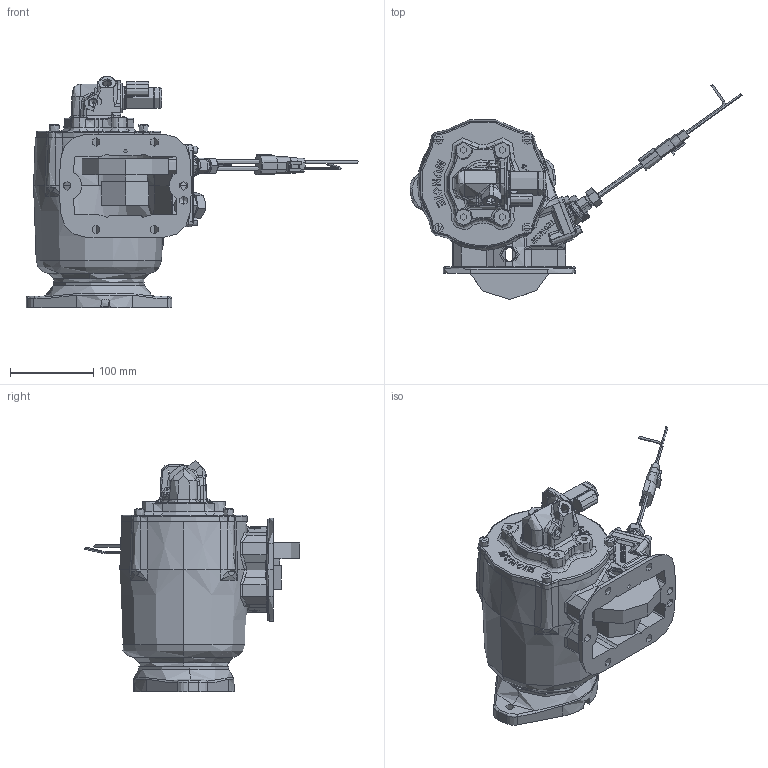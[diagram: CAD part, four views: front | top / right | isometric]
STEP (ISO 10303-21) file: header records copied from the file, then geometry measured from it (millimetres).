
FILE_DESCRIPTION (( 'STEP AP203' ), '1' );
FILE_NAME ('CS6S-XXXXX-S1SS.STEP', '2013-12-05T20:49:42', ( '' ), ( '' ), 'SwSTEP 2.0', 'SolidWorks 2013', '' );
FILE_SCHEMA (( 'CONFIG_CONTROL_DESIGN' ));
Length unit declared in the file: millimetre
Products named in the file (1): CS6S-XXXXX-S1SS
Bounding box: 398.12 x 257.85 x 278.15 mm (x, y, z)
Topology: 0 solids, 26 shells, 2255 faces, 5763 edges, 3613 vertices
Faces by surface type: bspline 731, cylinder 614, plane 571, cone 217, torus 118, sphere 4
Entity records: 151113 total; most frequent: CARTESIAN_POINT 102183, ORIENTED_EDGE 11390, DIRECTION 8129, EDGE_CURVE 5697, VERTEX_POINT 3613, AXIS2_PLACEMENT_3D 3020, EDGE_LOOP 2500, FACE_OUTER_BOUND 2255
